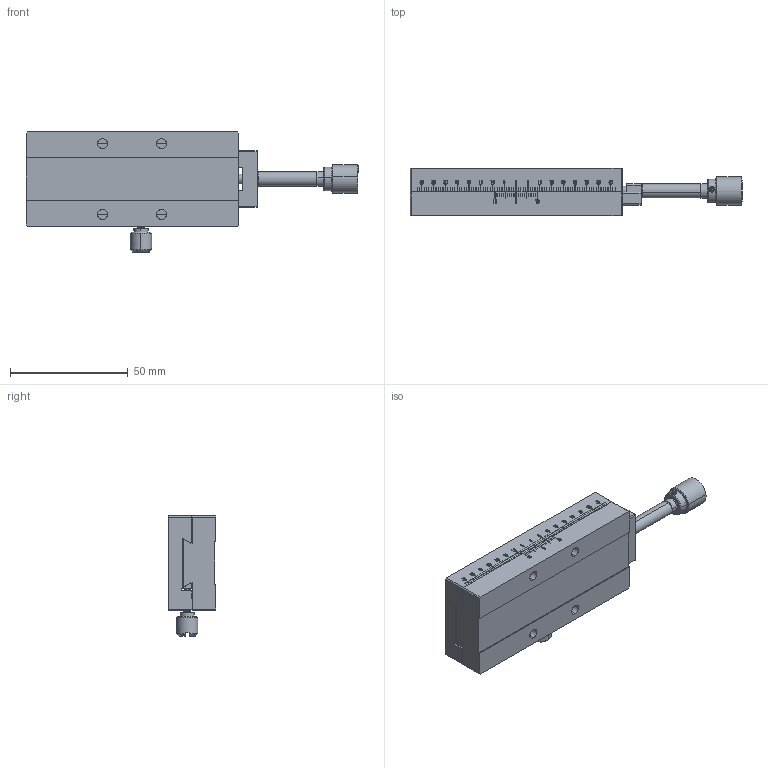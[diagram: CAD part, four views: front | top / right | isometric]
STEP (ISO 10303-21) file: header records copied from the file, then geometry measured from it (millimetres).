
FILE_DESCRIPTION (( 'STEP AP203' ), '1' );
FILE_NAME ('BLHS90.STEP', '2024-02-26T07:30:27', ( 'China' ), ( 'Microsoft' ), 'SwSTEP 2.0', 'SolidWorks 2024', '' );
FILE_SCHEMA (( 'CONFIG_CONTROL_DESIGN' ));
Length unit declared in the file: millimetre
Products named in the file (1): BLHS90
Bounding box: 140.8 x 20 x 51 mm (x, y, z)
Volume: 69576.2 mm3; surface area: 31341.7 mm2
Topology: 13 solids, 13 shells, 1678 faces, 4674 edges, 3077 vertices
Faces by surface type: plane 1003, bspline 384, cylinder 228, cone 55, torus 8
Entity records: 78499 total; most frequent: CARTESIAN_POINT 40132, ORIENTED_EDGE 9324, DIRECTION 5617, EDGE_CURVE 4662, VERTEX_POINT 3077, VECTOR 2327, LINE 2327, B_SPLINE_CURVE_WITH_KNOTS 1979
